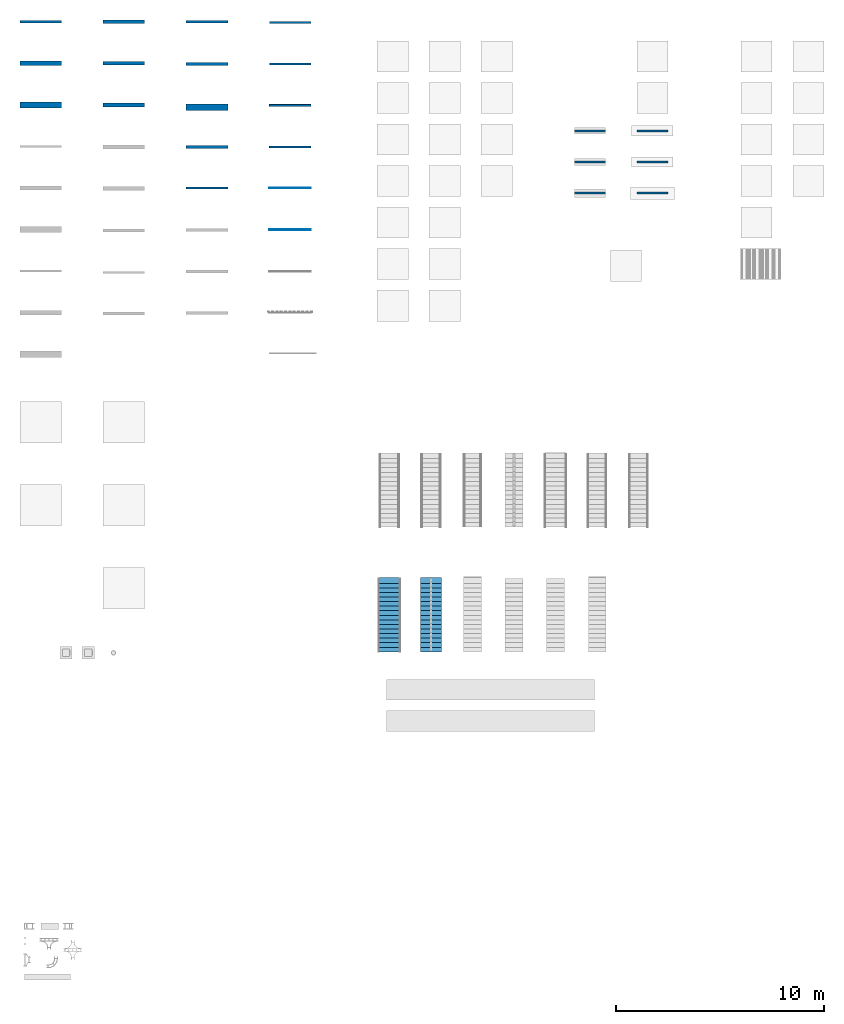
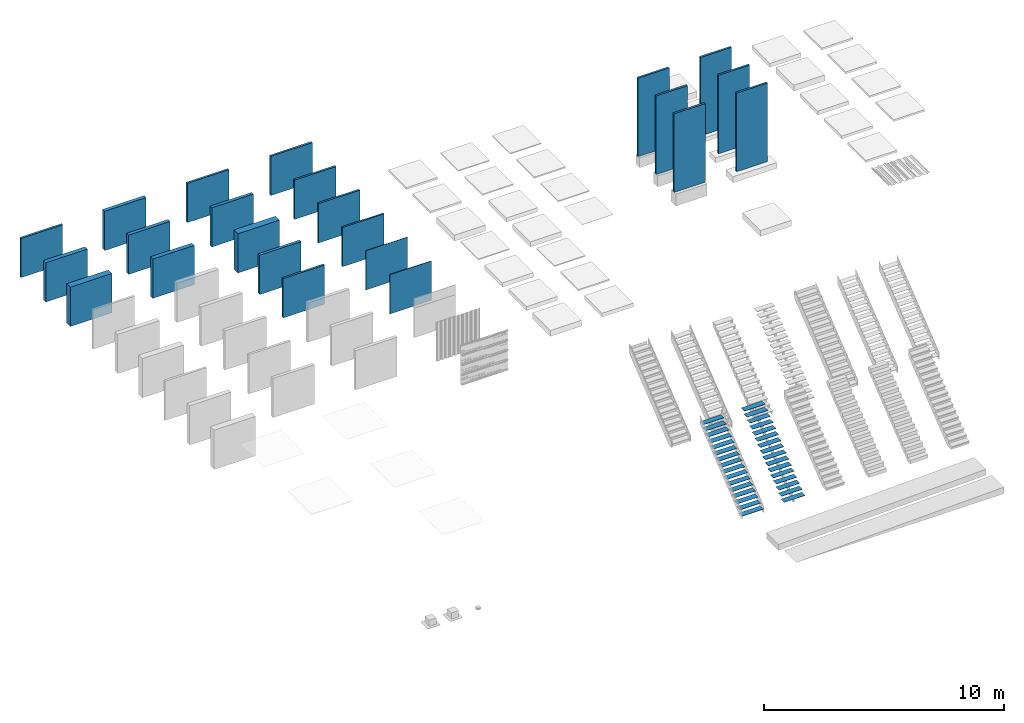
# One storey, part 5 of 13: 23 walls, 2 stair flights, 2 elements without a shape of their own.
"""IFC2X3 building model written with IfcOpenShell, lengths in millimetres."""

from ifc_helpers import new_model, entity, si_unit, converted_unit, derived_unit, direction, frame, frame_2d, origin, origin_2d_with_axis, place, context, subcontext, project, spatial, rectangle, extrude, material, layer, layer_set, layer_usage, type_object, element, aggregate, save


model = new_model("IFC2X3")

# Units and contexts
model_context = context("Model", 3, precision=0.01, world=origin(), true_north=direction((6.12303176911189e-17, 1.0)))
body_context = subcontext(model_context, "Body", "Model", "MODEL_VIEW")
ifc_project = project(units=[si_unit("LENGTHUNIT", "METRE", prefix="MILLI"), si_unit("AREAUNIT", "SQUARE_METRE"), si_unit("VOLUMEUNIT", "CUBIC_METRE"), converted_unit("PLANEANGLEUNIT", "DEGREE", entity("IfcRatioMeasure", 0.0174532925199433), si_unit("PLANEANGLEUNIT", "RADIAN"), dimensions=[0, 0, 0, 0, 0, 0, 0]), si_unit("MASSUNIT", "GRAM", prefix="KILO"), si_unit("TIMEUNIT", "SECOND"), si_unit("FREQUENCYUNIT", "HERTZ"), si_unit("THERMODYNAMICTEMPERATUREUNIT", "KELVIN"), derived_unit("THERMALTRANSMITTANCEUNIT", [(si_unit("MASSUNIT", "GRAM", prefix="KILO"), 1), (si_unit("THERMODYNAMICTEMPERATUREUNIT", "KELVIN"), -1), (si_unit("TIMEUNIT", "SECOND"), -3)]), derived_unit("VOLUMETRICFLOWRATEUNIT", [(si_unit("LENGTHUNIT", "METRE"), 3), (si_unit("TIMEUNIT", "SECOND"), -1)]), si_unit("ELECTRICCURRENTUNIT", "AMPERE"), si_unit("ELECTRICVOLTAGEUNIT", "VOLT"), si_unit("POWERUNIT", "WATT")], contexts=[model_context])

# Site, building, storey
site_placement = place(None, origin())
site = spatial("IfcSite", under=ifc_project, at=site_placement, Name="Surface", CompositionType="ELEMENT")
building_placement = place(site_placement, origin())
building = spatial("IfcBuilding", under=site, at=building_placement, CompositionType="ELEMENT")
storey_placement = place(building_placement, origin())
storey = spatial("IfcBuildingStorey", under=building, at=storey_placement, Name="00_begane grond", CompositionType="ELEMENT", Elevation=0.0)

# Walls
ifc_material_1 = material(Name="Default")
ifc_layer_1 = layer(ifc_material_1, 100.0)
ifc_layer_set_1 = layer_set([ifc_layer_1], Name="Basic Wall:20_WA_wand_generiek_100")
ifc_layer_usage_1 = layer_usage(ifc_layer_set_1, "AXIS2", "NEGATIVE", 50.0)
wall_type_1 = type_object("IfcWallType", Name="Basic Wall:20_WA_wand_generiek_100", PredefinedType="STANDARD", material=ifc_layer_set_1)
wall_1_placement = place(storey_placement, frame((0.0, -1000.0, 0.0)))
element("IfcWallStandardCase", 1, at=wall_1_placement, inside=storey, type_object=wall_type_1, material=ifc_layer_usage_1, Name="Basic Wall:20_WA_wand_generiek_100", ObjectType="Basic Wall:20_WA_wand_generiek_100:1384", context=body_context, shape_type="SweptSolid", body=[
    extrude(rectangle(XDim=2000.0, YDim=100.0, at=frame_2d((1000.0, -7.105427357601e-15), x_axis=(-1.0, 0.0))), origin(), (0.0, 0.0, 1.0), 2000.0),
])
ifc_layer_usage_2 = layer_usage(ifc_layer_set_1, "AXIS2", "NEGATIVE", 50.0)
wall_2_placement = place(storey_placement, frame((29689.8687148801, -6248.9380073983, 0.0)))
element("IfcWallStandardCase", 2, at=wall_2_placement, inside=storey, type_object=wall_type_1, material=ifc_layer_usage_2, Name="Basic Wall:20_WA_wand_generiek_100", ObjectType="Basic Wall:20_WA_wand_generiek_100:1384", context=body_context, shape_type="SweptSolid", body=[
    extrude(rectangle(XDim=1500.0, YDim=99.9999999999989, at=frame_2d((750.000000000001, -7.8159700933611e-14), x_axis=(-1.0, 0.0))), origin(), (0.0, 0.0, 1.0), 4000.0),
])
ifc_layer_usage_3 = layer_usage(ifc_layer_set_1, "AXIS2", "NEGATIVE", 50.0)
wall_3_placement = place(storey_placement, frame((29689.8687148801, -7748.9380073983, 0.0)))
element("IfcWallStandardCase", 3, at=wall_3_placement, inside=storey, type_object=wall_type_1, material=ifc_layer_usage_3, Name="Basic Wall:20_WA_wand_generiek_100", ObjectType="Basic Wall:20_WA_wand_generiek_100:1384", context=body_context, shape_type="SweptSolid", body=[
    extrude(rectangle(XDim=1500.0, YDim=100.000000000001, at=frame_2d((750.000000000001, -8.17124146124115e-14), x_axis=(-1.0, 0.0))), origin(), (0.0, 0.0, 1.0), 4000.0),
])
ifc_layer_usage_4 = layer_usage(ifc_layer_set_1, "AXIS2", "NEGATIVE", 50.0)
wall_4_placement = place(storey_placement, frame((29689.8687148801, -9248.9380073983, 0.0)))
element("IfcWallStandardCase", 4, at=wall_4_placement, inside=storey, type_object=wall_type_1, material=ifc_layer_usage_4, Name="Basic Wall:20_WA_wand_generiek_100", ObjectType="Basic Wall:20_WA_wand_generiek_100:1384", context=body_context, shape_type="SweptSolid", body=[
    extrude(rectangle(XDim=1500.0, YDim=99.9999999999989, at=frame_2d((750.000000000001, -7.8159700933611e-14), x_axis=(-1.0, 0.0))), origin(), (0.0, 0.0, 1.0), 4000.0),
])
ifc_layer_usage_5 = layer_usage(ifc_layer_set_1, "AXIS2", "NEGATIVE", 50.0)
wall_5_placement = place(storey_placement, frame((26689.8687148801, -6248.93800739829, 0.0)))
element("IfcWallStandardCase", 5, at=wall_5_placement, inside=storey, type_object=wall_type_1, material=ifc_layer_usage_5, Name="Basic Wall:20_WA_wand_generiek_100", ObjectType="Basic Wall:20_WA_wand_generiek_100:1384", context=body_context, shape_type="SweptSolid", body=[
    extrude(rectangle(XDim=1500.0, YDim=100.000000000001, at=frame_2d((750.000000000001, -8.17124146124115e-14), x_axis=(-1.0, 0.0))), origin(), (0.0, 0.0, 1.0), 4000.0),
])
ifc_layer_usage_6 = layer_usage(ifc_layer_set_1, "AXIS2", "NEGATIVE", 50.0)
wall_6_placement = place(storey_placement, frame((26689.8687148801, -7748.93800739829, 0.0)))
element("IfcWallStandardCase", 6, at=wall_6_placement, inside=storey, type_object=wall_type_1, material=ifc_layer_usage_6, Name="Basic Wall:20_WA_wand_generiek_100", ObjectType="Basic Wall:20_WA_wand_generiek_100:1384", context=body_context, shape_type="SweptSolid", body=[
    extrude(rectangle(XDim=1500.0, YDim=99.9999999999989, at=frame_2d((750.000000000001, -7.8159700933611e-14), x_axis=(-1.0, 0.0))), origin(), (0.0, 0.0, 1.0), 4000.0),
])
ifc_layer_usage_7 = layer_usage(ifc_layer_set_1, "AXIS2", "NEGATIVE", 50.0)
wall_7_placement = place(storey_placement, frame((26689.86871488, -9248.93800739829, 0.0)))
element("IfcWallStandardCase", 7, at=wall_7_placement, inside=storey, type_object=wall_type_1, material=ifc_layer_usage_7, Name="Basic Wall:20_WA_wand_generiek_100", ObjectType="Basic Wall:20_WA_wand_generiek_100:1384", context=body_context, shape_type="SweptSolid", body=[
    extrude(rectangle(XDim=1500.0, YDim=100.000000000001, at=frame_2d((750.000000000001, -8.17124146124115e-14), x_axis=(-1.0, 0.0))), origin(), (0.0, 0.0, 1.0), 4000.0),
])
ifc_layer_2 = layer(ifc_material_1, 200.0)
ifc_layer_set_2 = layer_set([ifc_layer_2], Name="Basic Wall:20_WA_wand_generiek_200")
ifc_layer_usage_8 = layer_usage(ifc_layer_set_2, "AXIS2", "NEGATIVE", 100.0)
wall_type_2 = type_object("IfcWallType", Name="Basic Wall:20_WA_wand_generiek_200", PredefinedType="STANDARD", material=ifc_layer_set_2)
wall_8_placement = place(storey_placement, frame((0.0, -3000.0, 0.0)))
element("IfcWallStandardCase", 8, at=wall_8_placement, inside=storey, type_object=wall_type_2, material=ifc_layer_usage_8, Name="Basic Wall:20_WA_wand_generiek_200", ObjectType="Basic Wall:20_WA_wand_generiek_200", context=body_context, shape_type="SweptSolid", body=[
    extrude(rectangle(XDim=2000.0, YDim=200.0, at=frame_2d((1000.0, -7.105427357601e-15), x_axis=(-1.0, 0.0))), origin(), (0.0, 0.0, 1.0), 2000.0),
])
ifc_layer_3 = layer(ifc_material_1, 300.0)
ifc_layer_set_3 = layer_set([ifc_layer_3], Name="Basic Wall:20_WA_wand_generiek_300")
ifc_layer_usage_9 = layer_usage(ifc_layer_set_3, "AXIS2", "NEGATIVE", 150.0)
wall_type_3 = type_object("IfcWallType", Name="Basic Wall:20_WA_wand_generiek_300", PredefinedType="STANDARD", material=ifc_layer_set_3)
wall_9_placement = place(storey_placement, frame((0.0, -5000.0, 0.0)))
element("IfcWallStandardCase", 9, at=wall_9_placement, inside=storey, type_object=wall_type_3, material=ifc_layer_usage_9, Name="Basic Wall:20_WA_wand_generiek_300", ObjectType="Basic Wall:20_WA_wand_generiek_300", context=body_context, shape_type="SweptSolid", body=[
    extrude(rectangle(XDim=2000.0, YDim=300.000000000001, at=frame_2d((1000.0, -2.70006239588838e-13), x_axis=(-1.0, 0.0))), origin(), (0.0, 0.0, 1.0), 2000.0),
])
ifc_material_2 = material(Name="20_baksteen_wf_210x100x50_10mm_voeg_halfsteens_rood_genuanceerd")
ifc_layer_4 = layer(ifc_material_2, 100.0)
ifc_material_3 = material(Name="00_lucht_spouw_muur_geventileerd")
ifc_layer_5 = layer(ifc_material_3, 70.0)
ifc_layer_set_4 = layer_set([ifc_layer_4, ifc_layer_5], Name="Basic Wall:-70")
ifc_layer_usage_10 = layer_usage(ifc_layer_set_4, "AXIS2", "NEGATIVE", 85.0)
wall_type_4 = type_object("IfcWallType", Name="Basic Wall:-70", PredefinedType="STANDARD", material=ifc_layer_set_4)
wall_10_placement = place(storey_placement, frame((4000.0, -1000.0, 0.0)))
element("IfcWallStandardCase", 10, at=wall_10_placement, inside=storey, type_object=wall_type_4, material=ifc_layer_usage_10, Name="Basic Wall:-70", ObjectType="Basic Wall:-70", context=body_context, shape_type="SweptSolid", body=[
    extrude(rectangle(XDim=2000.0, YDim=170.0, at=frame_2d((1000.0, -7.105427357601e-15), x_axis=(-1.0, 0.0))), origin(), (0.0, 0.0, 1.0), 2000.0),
])
ifc_layer_6 = layer(ifc_material_2, 100.0)
ifc_layer_7 = layer(ifc_material_3, 20.0)
ifc_material_4 = material(Name="20_isolatie_steenwol")
ifc_layer_8 = layer(ifc_material_4, 50.0)
ifc_layer_set_5 = layer_set([ifc_layer_6, ifc_layer_7, ifc_layer_8], Name="Basic Wall:21_WA_mw_spouw_iso-sw_170_100-20-50")
ifc_layer_usage_11 = layer_usage(ifc_layer_set_5, "AXIS2", "NEGATIVE", 85.0)
wall_type_5 = type_object("IfcWallType", Name="Basic Wall:21_WA_mw_spouw_iso-sw_170_100-20-50", PredefinedType="STANDARD", material=ifc_layer_set_5)
wall_11_placement = place(storey_placement, frame((4000.0, -3000.0, 0.0)))
element("IfcWallStandardCase", 11, at=wall_11_placement, inside=storey, type_object=wall_type_5, material=ifc_layer_usage_11, Name="Basic Wall:21_WA_mw_spouw_iso-sw_170_100-20-50", ObjectType="Basic Wall:21_WA_mw_spouw_iso-sw_170_100-20-50", context=body_context, shape_type="SweptSolid", body=[
    extrude(rectangle(XDim=2000.0, YDim=170.0, at=frame_2d((1000.0, -7.105427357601e-15), x_axis=(-1.0, 0.0))), origin(), (0.0, 0.0, 1.0), 2000.0),
])
ifc_layer_9 = layer(ifc_material_2, 100.0)
ifc_layer_10 = layer(ifc_material_3, 30.0)
ifc_layer_11 = layer(ifc_material_4, 70.0)
ifc_layer_set_6 = layer_set([ifc_layer_9, ifc_layer_10, ifc_layer_11], Name="Basic Wall:21_WA_mw_spouw_iso-sw_200_100-30-70")
ifc_layer_usage_12 = layer_usage(ifc_layer_set_6, "AXIS2", "NEGATIVE", 100.0)
wall_type_6 = type_object("IfcWallType", Name="Basic Wall:21_WA_mw_spouw_iso-sw_200_100-30-70", PredefinedType="STANDARD", material=ifc_layer_set_6)
wall_12_placement = place(storey_placement, frame((4000.0, -5000.0, 0.0)))
element("IfcWallStandardCase", 12, at=wall_12_placement, inside=storey, type_object=wall_type_6, material=ifc_layer_usage_12, Name="Basic Wall:21_WA_mw_spouw_iso-sw_200_100-30-70", ObjectType="Basic Wall:21_WA_mw_spouw_iso-sw_200_100-30-70", context=body_context, shape_type="SweptSolid", body=[
    extrude(rectangle(XDim=2000.0, YDim=200.0, at=frame_2d((1000.0, -7.105427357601e-15), x_axis=(-1.0, 0.0))), origin(), (0.0, 0.0, 1.0), 2000.0),
])
ifc_material_5 = material(Name="28_kalkzandsteen_CS16")
ifc_layer_12 = layer(ifc_material_5, 100.0)
ifc_layer_set_7 = layer_set([ifc_layer_12], Name="Basic Wall:28_WA_kzs_CS16_100")
ifc_layer_usage_13 = layer_usage(ifc_layer_set_7, "AXIS2", "NEGATIVE", 50.0)
wall_type_7 = type_object("IfcWallType", Name="Basic Wall:28_WA_kzs_CS16_100", PredefinedType="STANDARD", material=ifc_layer_set_7)
wall_13_placement = place(storey_placement, frame((8000.0, -1000.0, 0.0)))
element("IfcWallStandardCase", 13, at=wall_13_placement, inside=storey, type_object=wall_type_7, material=ifc_layer_usage_13, Name="Basic Wall:28_WA_kzs_CS16_100", ObjectType="Basic Wall:28_WA_kzs_CS16_100", context=body_context, shape_type="SweptSolid", body=[
    extrude(rectangle(XDim=2000.0, YDim=100.0, at=frame_2d((1000.0, -7.105427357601e-15), x_axis=(-1.0, 0.0))), origin(), (0.0, 0.0, 1.0), 2000.0),
])
ifc_layer_13 = layer(ifc_material_5, 150.0)
ifc_layer_set_8 = layer_set([ifc_layer_13], Name="Basic Wall:28_WA_kzs_CS16_150")
ifc_layer_usage_14 = layer_usage(ifc_layer_set_8, "AXIS2", "NEGATIVE", 75.0)
wall_type_8 = type_object("IfcWallType", Name="Basic Wall:28_WA_kzs_CS16_150", PredefinedType="STANDARD", material=ifc_layer_set_8)
wall_14_placement = place(storey_placement, frame((8000.0, -3025.0, 0.0)))
element("IfcWallStandardCase", 14, at=wall_14_placement, inside=storey, type_object=wall_type_8, material=ifc_layer_usage_14, Name="Basic Wall:28_WA_kzs_CS16_150", ObjectType="Basic Wall:28_WA_kzs_CS16_150", context=body_context, shape_type="SweptSolid", body=[
    extrude(rectangle(XDim=2000.0, YDim=150.000000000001, at=frame_2d((1000.0, -7.105427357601e-15), x_axis=(-1.0, 0.0))), origin(), (0.0, 0.0, 1.0), 2000.0),
])
ifc_layer_14 = layer(ifc_material_5, 150.0)
ifc_layer_15 = layer(ifc_material_3, 30.0)
ifc_layer_16 = layer(ifc_material_5, 150.0)
ifc_layer_set_9 = layer_set([ifc_layer_14, ifc_layer_15, ifc_layer_16], Name="Basic Wall:28_WA_kzs-CS16_spouw_kzs-C16_330_150-30-150")
ifc_layer_usage_15 = layer_usage(ifc_layer_set_9, "AXIS2", "NEGATIVE", 165.0)
wall_type_9 = type_object("IfcWallType", Name="Basic Wall:28_WA_kzs-CS16_spouw_kzs-C16_330_150-30-150", PredefinedType="STANDARD", material=ifc_layer_set_9)
wall_15_placement = place(storey_placement, frame((8000.0, -5115.0, 0.0)))
element("IfcWallStandardCase", 15, at=wall_15_placement, inside=storey, type_object=wall_type_9, material=ifc_layer_usage_15, Name="Basic Wall:28_WA_kzs-CS16_spouw_kzs-C16_330_150-30-150", ObjectType="Basic Wall:28_WA_kzs-CS16_spouw_kzs-C16_330_150-30-150", context=body_context, shape_type="SweptSolid", body=[
    extrude(rectangle(XDim=2000.0, YDim=330.000000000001, at=frame_2d((1000.0, 0.0), x_axis=(-1.0, 0.0))), origin(), (0.0, 0.0, 1.0), 2000.0),
])
ifc_material_6 = material(Name="28_poriso_dragend")
ifc_layer_17 = layer(ifc_material_6, 140.0)
ifc_layer_set_10 = layer_set([ifc_layer_17], Name="Basic Wall:28_WA_por_PM25_140")
ifc_layer_usage_16 = layer_usage(ifc_layer_set_10, "AXIS2", "NEGATIVE", 70.0)
wall_type_10 = type_object("IfcWallType", Name="Basic Wall:28_WA_por_PM25_140", PredefinedType="STANDARD", material=ifc_layer_set_10)
wall_16_placement = place(storey_placement, frame((8000.0, -7020.0, 0.0)))
element("IfcWallStandardCase", 16, at=wall_16_placement, inside=storey, type_object=wall_type_10, material=ifc_layer_usage_16, Name="Basic Wall:28_WA_por_PM25_140", ObjectType="Basic Wall:28_WA_por_PM25_140", context=body_context, shape_type="SweptSolid", body=[
    extrude(rectangle(XDim=2000.0, YDim=140.000000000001, at=frame_2d((1000.0, -7.105427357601e-15), x_axis=(-1.0, 0.0))), origin(), (0.0, 0.0, 1.0), 2000.0),
])
ifc_material_7 = material(Name="28_cellenbeton_G4/600")
ifc_layer_18 = layer(ifc_material_7, 100.0)
ifc_layer_set_11 = layer_set([ifc_layer_18], Name="Basic Wall:28_WA_cb_G4/600_100")
ifc_layer_usage_17 = layer_usage(ifc_layer_set_11, "AXIS2", "NEGATIVE", 50.0)
wall_type_11 = type_object("IfcWallType", Name="Basic Wall:28_WA_cb_G4/600_100", PredefinedType="STANDARD", material=ifc_layer_set_11)
wall_17_placement = place(storey_placement, frame((8000.0, -9000.0, 0.0)))
element("IfcWallStandardCase", 17, at=wall_17_placement, inside=storey, type_object=wall_type_11, material=ifc_layer_usage_17, Name="Basic Wall:28_WA_cb_G4/600_100", ObjectType="Basic Wall:28_WA_cb_G4/600_100", context=body_context, shape_type="SweptSolid", body=[
    extrude(rectangle(XDim=2000.0, YDim=100.000000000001, at=frame_2d((1000.0, -1.06581410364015e-14), x_axis=(-1.0, 0.0))), origin(), (0.0, 0.0, 1.0), 2000.0),
])
ifc_material_8 = material(Name="22_kalkzandsteen_CS12")
ifc_layer_19 = layer(ifc_material_8, 100.0)
ifc_layer_set_12 = layer_set([ifc_layer_19], Name="Basic Wall:22_WA_kzs_CS12_100")
ifc_layer_usage_18 = layer_usage(ifc_layer_set_12, "AXIS2", "NEGATIVE", 50.0)
wall_type_12 = type_object("IfcWallType", Name="Basic Wall:22_WA_kzs_CS12_100", PredefinedType="STANDARD", material=ifc_layer_set_12)
wall_18_placement = place(storey_placement, frame((12000.0, -1035.0, 0.0)))
element("IfcWallStandardCase", 18, at=wall_18_placement, inside=storey, type_object=wall_type_12, material=ifc_layer_usage_18, Name="Basic Wall:22_WA_kzs_CS12_100", ObjectType="Basic Wall:22_WA_kzs_CS12_100", context=body_context, shape_type="SweptSolid", body=[
    extrude(rectangle(XDim=2000.0, YDim=100.0, at=frame_2d((1000.0, -7.105427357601e-15), x_axis=(-1.0, 0.0))), origin(), (0.0, 0.0, 1.0), 2000.0),
])
ifc_material_9 = material(Name="22_cellenbeton G2/400")
ifc_layer_20 = layer(ifc_material_9, 100.0)
ifc_layer_set_13 = layer_set([ifc_layer_20], Name="Basic Wall:22_WA_cb_G2/400_100")
ifc_layer_usage_19 = layer_usage(ifc_layer_set_13, "AXIS2", "NEGATIVE", 50.0)
wall_type_13 = type_object("IfcWallType", Name="Basic Wall:22_WA_cb_G2/400_100", PredefinedType="STANDARD", material=ifc_layer_set_13)
wall_19_placement = place(storey_placement, frame((12000.0, -3035.0, 0.0)))
element("IfcWallStandardCase", 19, at=wall_19_placement, inside=storey, type_object=wall_type_13, material=ifc_layer_usage_19, Name="Basic Wall:22_WA_cb_G2/400_100", ObjectType="Basic Wall:22_WA_cb_G2/400_100", context=body_context, shape_type="SweptSolid", body=[
    extrude(rectangle(XDim=2000.0, YDim=100.0, at=frame_2d((1000.0, -7.105427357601e-15), x_axis=(-1.0, 0.0))), origin(), (0.0, 0.0, 1.0), 2000.0),
])
ifc_material_10 = material(Name="22_gips_beplating_wand_610mm")
ifc_layer_21 = layer(ifc_material_10, 12.5)
ifc_layer_22 = layer(ifc_material_4, 70.0)
ifc_layer_23 = layer(ifc_material_10, 12.5)
ifc_layer_set_14 = layer_set([ifc_layer_21, ifc_layer_22, ifc_layer_23], Name="Basic Wall:22_WA_ms-wand_gips_isolatie_gips_95_12.5-70-12.5")
ifc_layer_usage_20 = layer_usage(ifc_layer_set_14, "AXIS2", "NEGATIVE", 47.5)
wall_type_14 = type_object("IfcWallType", Name="Basic Wall:22_WA_ms-wand_gips_isolatie_gips_95_12.5-70-12.5", PredefinedType="STANDARD", material=ifc_layer_set_14)
wall_20_placement = place(storey_placement, frame((12000.0, -5020.0, 0.0)))
element("IfcWallStandardCase", 20, at=wall_20_placement, inside=storey, type_object=wall_type_14, material=ifc_layer_usage_20, Name="Basic Wall:22_WA_ms-wand_gips_isolatie_gips_95_12.5-70-12.5", ObjectType="Basic Wall:22_WA_ms-wand_gips_isolatie_gips_95_12.5-70-12.5", context=body_context, shape_type="SweptSolid", body=[
    extrude(rectangle(XDim=2000.0, YDim=95.0000000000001, at=frame_2d((1000.0, -7.105427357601e-15), x_axis=(-1.0, 0.0))), origin(), (0.0, 0.0, 1.0), 2000.0),
])
ifc_material_11 = material(Name="22_glazen_bouwsteen")
ifc_layer_24 = layer(ifc_material_11, 80.0)
ifc_layer_set_15 = layer_set([ifc_layer_24], Name="Basic Wall:22_WA_glazen_bouwsteen_80")
ifc_layer_usage_21 = layer_usage(ifc_layer_set_15, "AXIS2", "NEGATIVE", 40.0)
wall_type_15 = type_object("IfcWallType", Name="Basic Wall:22_WA_glazen_bouwsteen_80", PredefinedType="STANDARD", material=ifc_layer_set_15)
wall_21_placement = place(storey_placement, frame((12000.0, -7025.0, 0.0)))
element("IfcWallStandardCase", 21, at=wall_21_placement, inside=storey, type_object=wall_type_15, material=ifc_layer_usage_21, Name="Basic Wall:22_WA_glazen_bouwsteen_80", ObjectType="Basic Wall:22_WA_glazen_bouwsteen_80", context=body_context, shape_type="SweptSolid", body=[
    extrude(rectangle(XDim=2000.0, YDim=79.9999999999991, at=frame_2d((1000.0, -7.105427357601e-15), x_axis=(-1.0, 0.0))), origin(), (0.0, 0.0, 1.0), 2000.0),
])
ifc_material_12 = material(Name="40_stucwerk_interieur_fijn_wit")
ifc_layer_25 = layer(ifc_material_12, 20.0)
ifc_layer_set_16 = layer_set([ifc_layer_25], Name="Basic Wall:42_WA_stucwerk_20")
ifc_layer_usage_22 = layer_usage(ifc_layer_set_16, "AXIS2", "NEGATIVE", 10.0)
wall_type_16 = type_object("IfcWallType", Name="Basic Wall:42_WA_stucwerk_20", PredefinedType="STANDARD", material=ifc_layer_set_16)
wall_22_placement = place(storey_placement, frame((12000.0, -9007.50000000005, 0.0)))
element("IfcWallStandardCase", 22, at=wall_22_placement, inside=storey, type_object=wall_type_16, material=ifc_layer_usage_22, Name="Basic Wall:42_WA_stucwerk_20", ObjectType="Basic Wall:42_WA_stucwerk_20", context=body_context, shape_type="SweptSolid", body=[
    extrude(rectangle(XDim=2000.0, YDim=19.9999999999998, at=frame_2d((1000.0, -7.99360577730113e-15), x_axis=(-1.0, 0.0))), origin(), (0.0, 0.0, 1.0), 2000.0),
])
ifc_material_13 = material(Name="40_tegels_keramisch_150x150mm_wit")
ifc_layer_26 = layer(ifc_material_13, 10.0)
ifc_material_14 = material(Name="00_zandcement")
ifc_layer_27 = layer(ifc_material_14, 20.0)
ifc_layer_set_17 = layer_set([ifc_layer_26, ifc_layer_27], Name="Basic Wall:42_WA_tegelwerk_150x150x10mm_op cementmortel_wit")
ifc_layer_usage_23 = layer_usage(ifc_layer_set_17, "AXIS2", "NEGATIVE", 15.0)
wall_type_17 = type_object("IfcWallType", Name="Basic Wall:42_WA_tegelwerk_150x150x10mm_op cementmortel_wit", PredefinedType="STANDARD", material=ifc_layer_set_17)
wall_23_placement = place(storey_placement, frame((12000.0, -11012.5, 0.0)))
element("IfcWallStandardCase", 23, at=wall_23_placement, inside=storey, type_object=wall_type_17, material=ifc_layer_usage_23, Name="Basic Wall:42_WA_tegelwerk_150x150x10mm_op cementmortel_wit", ObjectType="Basic Wall:42_WA_tegelwerk_150x150x10mm_op cementmortel_wit", context=body_context, shape_type="SweptSolid", body=[
    extrude(rectangle(XDim=2000.0, YDim=30.0000000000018, at=frame_2d((1000.0, 5.32907051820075e-13), x_axis=(-1.0, 0.0))), origin(), (0.0, 0.0, 1.0), 2000.0),
])

# Stair, stair flight
stair_1_placement = place(storey_placement, origin())
stair_1 = element("IfcStair", 24, at=stair_1_placement, inside=storey, Name="Assembled Stair:Stair", ShapeType="NOTDEFINED")
ifc_material_15 = material(Name="24_staal_gegalvaniseerd_rooster_generiek")
stair_flight_1_placement = place(stair_1_placement, frame((17274.8089026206, -31324.6322235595, 0.0)))
stair_flight_1 = element("IfcStairFlight", 25, at=stair_flight_1_placement, material=ifc_material_15, Name="Assembled Stair:Stair:69305 Run 1", ObjectType="Assembled Stair:24_ST_stalen trap_open_b=1000_op=185_aan=350", NumberOfRiser=17, NumberOfTreads=16, RiserHeight=0.578971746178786, TreadLength=0.721784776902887, context=body_context, shape_type="SweptSolid", body=[
    extrude(rectangle(XDim=270.000000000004, YDim=1000.0, at=frame_2d((2.1600499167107e-12, -2.1600499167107e-12), x_axis=(1.0, 0.0))), frame((500.0, 135.0, 161.470588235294), z_axis=(0.0, 0.0, 1.0), x_axis=(0.0, -1.0, 0.0)), (0.0, 0.0, 1.0), 15.0),
    extrude(rectangle(XDim=269.999999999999, YDim=1000.0, at=frame_2d((4.32009983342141e-12, -2.1600499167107e-12), x_axis=(1.0, 0.0))), frame((500.0, 355.0, 337.941176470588), z_axis=(0.0, 0.0, 1.0), x_axis=(0.0, -1.0, 0.0)), (0.0, 0.0, 1.0), 15.0),
    extrude(rectangle(XDim=270.000000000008, YDim=1000.0, at=frame_2d((-4.33431068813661e-12, -1.08002495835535e-12), x_axis=(1.0, 0.0))), frame((500.0, 575.0, 514.411764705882), z_axis=(0.0, 0.0, 1.0), x_axis=(0.0, -1.0, 0.0)), (0.0, 0.0, 1.0), 15.0),
    extrude(rectangle(XDim=269.999999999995, YDim=1000.0, at=frame_2d((-2.1600499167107e-12, -2.18847162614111e-12), x_axis=(1.0, 0.0))), frame((500.0, 795.0, 690.882352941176), z_axis=(0.0, 0.0, 1.0), x_axis=(0.0, -1.0, 0.0)), (0.0, 0.0, 1.0), 15.0),
    extrude(rectangle(XDim=270.000000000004, YDim=1000.0, at=frame_2d((2.1600499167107e-12, -2.18847162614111e-12), x_axis=(1.0, 0.0))), frame((500.0, 1015.0, 867.35294117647), z_axis=(0.0, 0.0, 1.0), x_axis=(0.0, -1.0, 0.0)), (0.0, 0.0, 1.0), 15.0),
    extrude(rectangle(XDim=269.999999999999, YDim=1000.0, at=frame_2d((0.0, -2.18847162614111e-12), x_axis=(1.0, 0.0))), frame((500.0, 1235.0, 1043.82352941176), z_axis=(0.0, 0.0, 1.0), x_axis=(0.0, -1.0, 0.0)), (0.0, 0.0, 1.0), 15.0),
    extrude(rectangle(XDim=270.000000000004, YDim=1000.0, at=frame_2d((-2.1600499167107e-12, -2.18847162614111e-12), x_axis=(1.0, 0.0))), frame((500.0, 1455.0, 1220.29411764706), z_axis=(0.0, 0.0, 1.0), x_axis=(0.0, -1.0, 0.0)), (0.0, 0.0, 1.0), 15.0000000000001),
    extrude(rectangle(XDim=270.000000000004, YDim=1000.0, at=frame_2d((-2.1600499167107e-12, -1.08002495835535e-12), x_axis=(1.0, 0.0))), frame((500.0, 1675.0, 1396.76470588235), z_axis=(0.0, 0.0, 1.0), x_axis=(0.0, -1.0, 0.0)), (0.0, 0.0, 1.0), 15.0000000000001),
    extrude(rectangle(XDim=269.999999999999, YDim=1000.0, at=frame_2d((4.33431068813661e-12, -1.08002495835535e-12), x_axis=(1.0, 0.0))), frame((500.0, 1895.0, 1573.23529411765), z_axis=(0.0, 0.0, 1.0), x_axis=(0.0, -1.0, 0.0)), (0.0, 0.0, 1.0), 15.0000000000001),
    extrude(rectangle(XDim=270.000000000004, YDim=1000.0, at=frame_2d((2.1600499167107e-12, 0.0), x_axis=(1.0, 0.0))), frame((500.0, 2115.0, 1749.70588235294), z_axis=(0.0, 0.0, 1.0), x_axis=(0.0, -1.0, 0.0)), (0.0, 0.0, 1.0), 15.0000000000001),
    extrude(rectangle(XDim=269.999999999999, YDim=1000.0, at=frame_2d((4.32009983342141e-12, 0.0), x_axis=(1.0, 0.0))), frame((500.0, 2335.0, 1926.17647058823), z_axis=(0.0, 0.0, 1.0), x_axis=(0.0, -1.0, 0.0)), (0.0, 0.0, 1.0), 15.0000000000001),
    extrude(rectangle(XDim=269.999999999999, YDim=1000.0, at=origin_2d_with_axis()), frame((500.0, 2555.0, 2102.64705882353), z_axis=(0.0, 0.0, 1.0), x_axis=(0.0, -1.0, 0.0)), (0.0, 0.0, 1.0), 15.0000000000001),
    extrude(rectangle(XDim=270.000000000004, YDim=1000.0, at=frame_2d((-2.1600499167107e-12, 0.0), x_axis=(1.0, 0.0))), frame((500.0, 2775.0, 2279.11764705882), z_axis=(0.0, 0.0, 1.0), x_axis=(0.0, -1.0, 0.0)), (0.0, 0.0, 1.0), 15.0000000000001),
    extrude(rectangle(XDim=270.000000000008, YDim=1000.0, at=frame_2d((0.0, 1.08002495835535e-12), x_axis=(1.0, 0.0))), frame((500.0, 2995.0, 2455.58823529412), z_axis=(0.0, 0.0, 1.0), x_axis=(0.0, -1.0, 0.0)), (0.0, 0.0, 1.0), 14.9999999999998),
    extrude(rectangle(XDim=269.999999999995, YDim=1000.0, at=frame_2d((2.1600499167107e-12, 0.0), x_axis=(1.0, 0.0))), frame((500.0, 3215.0, 2632.05882352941), z_axis=(0.0, 0.0, 1.0), x_axis=(0.0, -1.0, 0.0)), (0.0, 0.0, 1.0), 14.9999999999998),
    extrude(rectangle(XDim=270.000000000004, YDim=1000.0, at=frame_2d((-2.1600499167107e-12, 0.0), x_axis=(1.0, 0.0))), frame((500.0, 3435.0, 2808.5294117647), z_axis=(0.0, 0.0, 1.0), x_axis=(0.0, -1.0, 0.0)), (0.0, 0.0, 1.0), 14.9999999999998),
])
aggregate(stair_1, [stair_flight_1])

stair_2_placement = place(storey_placement, origin())
stair_2 = element("IfcStair", 26, at=stair_2_placement, inside=storey, Name="Assembled Stair:Stair", ShapeType="NOTDEFINED")
stair_flight_2_placement = place(stair_2_placement, frame((19274.8089026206, -31324.6322235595, 0.0)))
stair_flight_2 = element("IfcStairFlight", 27, at=stair_flight_2_placement, material=ifc_material_15, Name="Assembled Stair:Stair:69309 Run 1", ObjectType="Assembled Stair:24_ST_stalen trap_open_middenboom_b=1000_op=185_aan=220", NumberOfRiser=17, NumberOfTreads=16, RiserHeight=0.578971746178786, TreadLength=0.721784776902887, context=body_context, shape_type="SweptSolid", body=[
    extrude(rectangle(XDim=270.000000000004, YDim=999.999999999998, at=frame_2d((-2.1600499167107e-12, 0.0), x_axis=(1.0, 0.0))), frame((500.0, 135.0, 161.470588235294), z_axis=(0.0, 0.0, 1.0), x_axis=(0.0, -1.0, 0.0)), (0.0, 0.0, 1.0), 15.0),
    extrude(rectangle(XDim=269.999999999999, YDim=999.999999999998, at=origin_2d_with_axis()), frame((500.0, 355.0, 337.941176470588), z_axis=(0.0, 0.0, 1.0), x_axis=(0.0, -1.0, 0.0)), (0.0, 0.0, 1.0), 15.0),
    extrude(rectangle(XDim=270.000000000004, YDim=999.999999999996, at=frame_2d((2.1600499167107e-12, 1.10844666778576e-12), x_axis=(1.0, 0.0))), frame((500.0, 575.0, 514.411764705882), z_axis=(0.0, 0.0, 1.0), x_axis=(0.0, -1.0, 0.0)), (0.0, 0.0, 1.0), 15.0),
    extrude(rectangle(XDim=269.999999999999, YDim=999.999999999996, at=frame_2d((0.0, 1.10844666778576e-12), x_axis=(1.0, 0.0))), frame((500.0, 795.0, 690.882352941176), z_axis=(0.0, 0.0, 1.0), x_axis=(0.0, -1.0, 0.0)), (0.0, 0.0, 1.0), 15.0),
    extrude(rectangle(XDim=270.000000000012, YDim=999.999999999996, at=frame_2d((-6.49436060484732e-12, 1.10844666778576e-12), x_axis=(1.0, 0.0))), frame((500.0, 1015.0, 867.35294117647), z_axis=(0.0, 0.0, 1.0), x_axis=(0.0, -1.0, 0.0)), (0.0, 0.0, 1.0), 15.0),
    extrude(rectangle(XDim=269.999999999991, YDim=1000.0, at=frame_2d((4.33431068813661e-12, 1.10844666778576e-12), x_axis=(1.0, 0.0))), frame((500.0, 1235.0, 1043.82352941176), z_axis=(0.0, 0.0, 1.0), x_axis=(0.0, -1.0, 0.0)), (0.0, 0.0, 1.0), 15.0),
    extrude(rectangle(XDim=270.000000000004, YDim=1000.0, at=frame_2d((2.1600499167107e-12, -1.10844666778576e-12), x_axis=(1.0, 0.0))), frame((500.0, 1455.0, 1220.29411764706), z_axis=(0.0, 0.0, 1.0), x_axis=(0.0, -1.0, 0.0)), (0.0, 0.0, 1.0), 15.0000000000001),
    extrude(rectangle(XDim=269.999999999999, YDim=999.999999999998, at=frame_2d((-4.32009983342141e-12, 0.0), x_axis=(1.0, 0.0))), frame((500.0, 1675.0, 1396.76470588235), z_axis=(0.0, 0.0, 1.0), x_axis=(0.0, -1.0, 0.0)), (0.0, 0.0, 1.0), 15.0000000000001),
    extrude(rectangle(XDim=270.000000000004, YDim=999.999999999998, at=frame_2d((-2.1600499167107e-12, 0.0), x_axis=(1.0, 0.0))), frame((500.0, 1895.0, 1573.23529411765), z_axis=(0.0, 0.0, 1.0), x_axis=(0.0, -1.0, 0.0)), (0.0, 0.0, 1.0), 15.0000000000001),
    extrude(rectangle(XDim=269.999999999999, YDim=999.999999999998, at=origin_2d_with_axis()), frame((500.0, 2115.0, 1749.70588235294), z_axis=(0.0, 0.0, 1.0), x_axis=(0.0, -1.0, 0.0)), (0.0, 0.0, 1.0), 15.0000000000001),
    extrude(rectangle(XDim=270.000000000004, YDim=999.999999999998, at=frame_2d((-2.1600499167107e-12, 0.0), x_axis=(1.0, 0.0))), frame((500.0, 2335.0, 1926.17647058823), z_axis=(0.0, 0.0, 1.0), x_axis=(0.0, -1.0, 0.0)), (0.0, 0.0, 1.0), 15.0000000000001),
    extrude(rectangle(XDim=270.000000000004, YDim=999.999999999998, at=frame_2d((2.1600499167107e-12, 0.0), x_axis=(1.0, 0.0))), frame((500.0, 2555.0, 2102.64705882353), z_axis=(0.0, 0.0, 1.0), x_axis=(0.0, -1.0, 0.0)), (0.0, 0.0, 1.0), 15.0000000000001),
    extrude(rectangle(XDim=269.999999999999, YDim=999.999999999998, at=origin_2d_with_axis()), frame((500.0, 2775.0, 2279.11764705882), z_axis=(0.0, 0.0, 1.0), x_axis=(0.0, -1.0, 0.0)), (0.0, 0.0, 1.0), 15.0000000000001),
    extrude(rectangle(XDim=270.000000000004, YDim=999.999999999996, at=frame_2d((-2.1600499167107e-12, 1.10844666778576e-12), x_axis=(1.0, 0.0))), frame((500.0, 2995.0, 2455.58823529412), z_axis=(0.0, 0.0, 1.0), x_axis=(0.0, -1.0, 0.0)), (0.0, 0.0, 1.0), 14.9999999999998),
    extrude(rectangle(XDim=269.999999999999, YDim=999.999999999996, at=frame_2d((0.0, 1.10844666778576e-12), x_axis=(1.0, 0.0))), frame((500.0, 3215.0, 2632.05882352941), z_axis=(0.0, 0.0, 1.0), x_axis=(0.0, -1.0, 0.0)), (0.0, 0.0, 1.0), 14.9999999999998),
    extrude(rectangle(XDim=270.000000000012, YDim=999.999999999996, at=frame_2d((-6.49436060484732e-12, 1.10844666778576e-12), x_axis=(1.0, 0.0))), frame((500.0, 3435.0, 2808.5294117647), z_axis=(0.0, 0.0, 1.0), x_axis=(0.0, -1.0, 0.0)), (0.0, 0.0, 1.0), 14.9999999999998),
])
aggregate(stair_2, [stair_flight_2])

save(model, "model.ifc")
